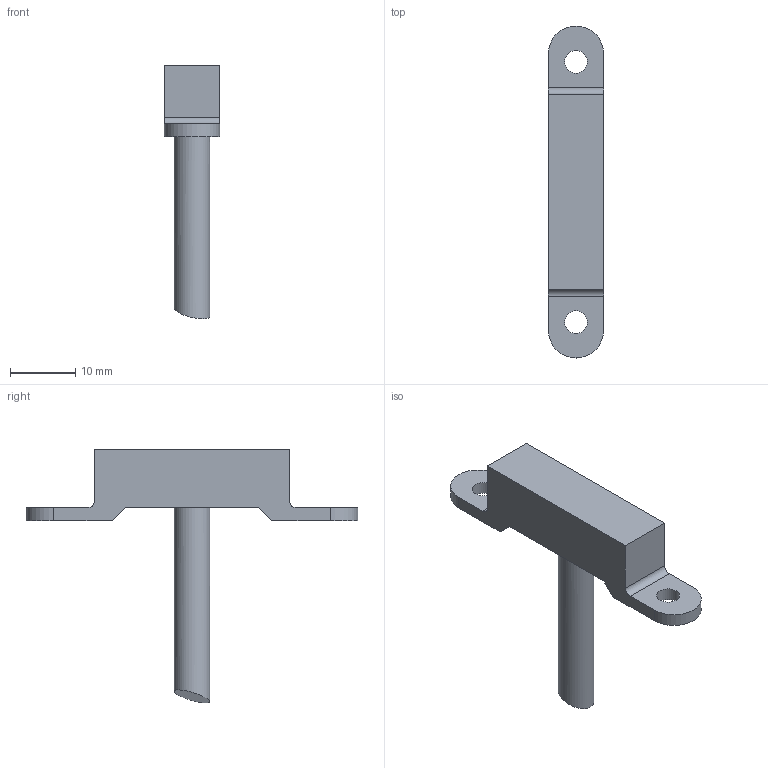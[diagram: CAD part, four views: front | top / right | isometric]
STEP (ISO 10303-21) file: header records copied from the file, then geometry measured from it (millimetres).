
FILE_DESCRIPTION((''),'2;1');
FILE_NAME('C:\Vault_local\Designs\Stock\3D pour clients\préparations\2D3D 506 A.stp','2009-08-05T10:54:40',('Georges THOLLOT ','Responsable ','Mthodes et Industrialisation',' Tl : +33 (0)4 77 53 90 27','gthollot@celduc.com'),('Celduc r e l a i s','5, rue Ampre, BP 30004','42290 SORBIERS - France','Fax. : +33 (0)4 77 53 85 51','N siret 353 310 519 00015','ISO 9001 N QUAL/1993/1106b','www.celduc.com'),'Autodesk Inventor 2009','Autodesk Inventor 2009','');
FILE_SCHEMA(('AUTOMOTIVE_DESIGN { 1 0 10303 214 1 1 1 1 }'));
Length unit declared in the file: millimetre
Products named in the file (1): PBA
Bounding box: 8.5 x 51 x 39 mm (x, y, z)
Volume: 3402.6 mm3; surface area: 2178.1 mm2
Topology: 1 solids, 1 shells, 20 faces, 54 edges, 37 vertices
Faces by surface type: plane 13, cylinder 7
Full cylindrical faces by diameter (mm): 3.5 x2, 5.5 x1
Entity records: 648 total; most frequent: DIRECTION 104, CARTESIAN_POINT 103, ORIENTED_EDGE 96, EDGE_CURVE 48, AXIS2_PLACEMENT_3D 35, VERTEX_POINT 34, VECTOR 34, LINE 34
